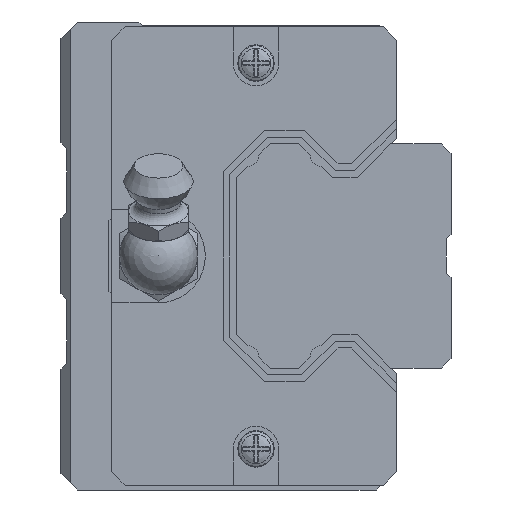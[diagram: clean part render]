
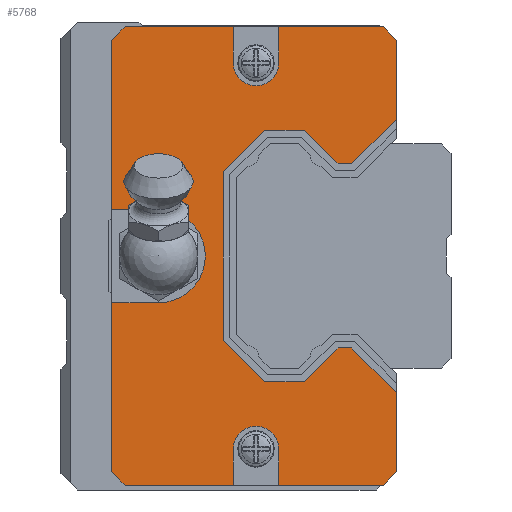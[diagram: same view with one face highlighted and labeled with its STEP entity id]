
A CAD part, left-side view. The second image highlights one B-rep face of the part: STEP entity #5768.
In plain terms, the highlighted planar face has unit normal (-1, 0, 0) as drawn and (1, 0, 0) by its records, which use the part's own axes.
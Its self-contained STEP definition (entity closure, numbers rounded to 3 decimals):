
#539=FACE_OUTER_BOUND('',#934,.T.);
#934=EDGE_LOOP('',(#4784,#4785,#4786,#4787,#4788,#4789,#4790,#4791,#4792,
#4793,#4794,#4795,#4796,#4797,#4798,#4799,#4800,#4801,#4802,#4803,#4804,
#4805,#4806,#4807,#4808,#4809,#4810,#4811,#4812,#4813,#4814,#4815));
#1205=CIRCLE('',#6460,2.328);
#1206=CIRCLE('',#6461,4.8);
#1207=CIRCLE('',#6462,2.328);
#1640=LINE('',#9502,#2193);
#1648=LINE('',#9515,#2201);
#1650=LINE('',#9519,#2203);
#1651=LINE('',#9521,#2204);
#1652=LINE('',#9523,#2205);
#1653=LINE('',#9525,#2206);
#1654=LINE('',#9527,#2207);
#1655=LINE('',#9529,#2208);
#1656=LINE('',#9531,#2209);
#1657=LINE('',#9533,#2210);
#1658=LINE('',#9535,#2211);
#1659=LINE('',#9537,#2212);
#1660=LINE('',#9538,#2213);
#1661=LINE('',#9540,#2214);
#1662=LINE('',#9542,#2215);
#1663=LINE('',#9544,#2216);
#1664=LINE('',#9548,#2217);
#1665=LINE('',#9550,#2218);
#1666=LINE('',#9552,#2219);
#1667=LINE('',#9554,#2220);
#1668=LINE('',#9556,#2221);
#1669=LINE('',#9560,#2222);
#1670=LINE('',#9562,#2223);
#1671=LINE('',#9564,#2224);
#1672=LINE('',#9566,#2225);
#1673=LINE('',#9568,#2226);
#1674=LINE('',#9572,#2227);
#1675=LINE('',#9574,#2228);
#1676=LINE('',#9575,#2229);
#2193=VECTOR('',#7790,1000.);
#2201=VECTOR('',#7800,1000.);
#2203=VECTOR('',#7804,1000.);
#2204=VECTOR('',#7805,1000.);
#2205=VECTOR('',#7806,1000.);
#2206=VECTOR('',#7807,1000.);
#2207=VECTOR('',#7808,1000.);
#2208=VECTOR('',#7809,1000.);
#2209=VECTOR('',#7810,1000.);
#2210=VECTOR('',#7811,1000.);
#2211=VECTOR('',#7812,1000.);
#2212=VECTOR('',#7813,1000.);
#2213=VECTOR('',#7814,1000.);
#2214=VECTOR('',#7815,1000.);
#2215=VECTOR('',#7816,1000.);
#2216=VECTOR('',#7817,1000.);
#2217=VECTOR('',#7820,1000.);
#2218=VECTOR('',#7821,1000.);
#2219=VECTOR('',#7822,1000.);
#2220=VECTOR('',#7823,1000.);
#2221=VECTOR('',#7824,1000.);
#2222=VECTOR('',#7827,1000.);
#2223=VECTOR('',#7828,1000.);
#2224=VECTOR('',#7829,1000.);
#2225=VECTOR('',#7830,1000.);
#2226=VECTOR('',#7831,1000.);
#2227=VECTOR('',#7834,1000.);
#2228=VECTOR('',#7835,1000.);
#2229=VECTOR('',#7836,1000.);
#2772=VERTEX_POINT('',#9499);
#2773=VERTEX_POINT('',#9501);
#2776=VERTEX_POINT('',#9512);
#2777=VERTEX_POINT('',#9514);
#2778=VERTEX_POINT('',#9518);
#2779=VERTEX_POINT('',#9520);
#2780=VERTEX_POINT('',#9522);
#2781=VERTEX_POINT('',#9524);
#2782=VERTEX_POINT('',#9526);
#2783=VERTEX_POINT('',#9528);
#2784=VERTEX_POINT('',#9530);
#2785=VERTEX_POINT('',#9532);
#2786=VERTEX_POINT('',#9534);
#2787=VERTEX_POINT('',#9536);
#2788=VERTEX_POINT('',#9539);
#2789=VERTEX_POINT('',#9541);
#2790=VERTEX_POINT('',#9543);
#2791=VERTEX_POINT('',#9545);
#2792=VERTEX_POINT('',#9547);
#2793=VERTEX_POINT('',#9549);
#2794=VERTEX_POINT('',#9551);
#2795=VERTEX_POINT('',#9553);
#2796=VERTEX_POINT('',#9555);
#2797=VERTEX_POINT('',#9557);
#2798=VERTEX_POINT('',#9559);
#2799=VERTEX_POINT('',#9561);
#2800=VERTEX_POINT('',#9563);
#2801=VERTEX_POINT('',#9565);
#2802=VERTEX_POINT('',#9567);
#2803=VERTEX_POINT('',#9569);
#2804=VERTEX_POINT('',#9571);
#2805=VERTEX_POINT('',#9573);
#3474=EDGE_CURVE('',#2773,#2772,#1640,.T.);
#3482=EDGE_CURVE('',#2777,#2776,#1648,.T.);
#3484=EDGE_CURVE('',#2778,#2772,#1650,.T.);
#3485=EDGE_CURVE('',#2779,#2778,#1651,.T.);
#3486=EDGE_CURVE('',#2780,#2779,#1652,.T.);
#3487=EDGE_CURVE('',#2781,#2780,#1653,.T.);
#3488=EDGE_CURVE('',#2782,#2781,#1654,.T.);
#3489=EDGE_CURVE('',#2783,#2782,#1655,.T.);
#3490=EDGE_CURVE('',#2784,#2783,#1656,.T.);
#3491=EDGE_CURVE('',#2785,#2784,#1657,.T.);
#3492=EDGE_CURVE('',#2786,#2785,#1658,.T.);
#3493=EDGE_CURVE('',#2787,#2786,#1659,.T.);
#3494=EDGE_CURVE('',#2777,#2787,#1660,.T.);
#3495=EDGE_CURVE('',#2776,#2788,#1661,.T.);
#3496=EDGE_CURVE('',#2788,#2789,#1662,.T.);
#3497=EDGE_CURVE('',#2790,#2789,#1663,.T.);
#3498=EDGE_CURVE('',#2791,#2790,#1205,.T.);
#3499=EDGE_CURVE('',#2792,#2791,#1664,.T.);
#3500=EDGE_CURVE('',#2792,#2793,#1665,.T.);
#3501=EDGE_CURVE('',#2793,#2794,#1666,.T.);
#3502=EDGE_CURVE('',#2794,#2795,#1667,.T.);
#3503=EDGE_CURVE('',#2796,#2795,#1668,.T.);
#3504=EDGE_CURVE('',#2797,#2796,#1206,.T.);
#3505=EDGE_CURVE('',#2798,#2797,#1669,.T.);
#3506=EDGE_CURVE('',#2798,#2799,#1670,.T.);
#3507=EDGE_CURVE('',#2799,#2800,#1671,.T.);
#3508=EDGE_CURVE('',#2800,#2801,#1672,.T.);
#3509=EDGE_CURVE('',#2802,#2801,#1673,.T.);
#3510=EDGE_CURVE('',#2803,#2802,#1207,.T.);
#3511=EDGE_CURVE('',#2804,#2803,#1674,.T.);
#3512=EDGE_CURVE('',#2804,#2805,#1675,.T.);
#3513=EDGE_CURVE('',#2805,#2773,#1676,.T.);
#4784=ORIENTED_EDGE('',*,*,#3484,.F.);
#4785=ORIENTED_EDGE('',*,*,#3485,.F.);
#4786=ORIENTED_EDGE('',*,*,#3486,.F.);
#4787=ORIENTED_EDGE('',*,*,#3487,.F.);
#4788=ORIENTED_EDGE('',*,*,#3488,.F.);
#4789=ORIENTED_EDGE('',*,*,#3489,.F.);
#4790=ORIENTED_EDGE('',*,*,#3490,.F.);
#4791=ORIENTED_EDGE('',*,*,#3491,.F.);
#4792=ORIENTED_EDGE('',*,*,#3492,.F.);
#4793=ORIENTED_EDGE('',*,*,#3493,.F.);
#4794=ORIENTED_EDGE('',*,*,#3494,.F.);
#4795=ORIENTED_EDGE('',*,*,#3482,.T.);
#4796=ORIENTED_EDGE('',*,*,#3495,.T.);
#4797=ORIENTED_EDGE('',*,*,#3496,.T.);
#4798=ORIENTED_EDGE('',*,*,#3497,.F.);
#4799=ORIENTED_EDGE('',*,*,#3498,.F.);
#4800=ORIENTED_EDGE('',*,*,#3499,.F.);
#4801=ORIENTED_EDGE('',*,*,#3500,.T.);
#4802=ORIENTED_EDGE('',*,*,#3501,.T.);
#4803=ORIENTED_EDGE('',*,*,#3502,.T.);
#4804=ORIENTED_EDGE('',*,*,#3503,.F.);
#4805=ORIENTED_EDGE('',*,*,#3504,.F.);
#4806=ORIENTED_EDGE('',*,*,#3505,.F.);
#4807=ORIENTED_EDGE('',*,*,#3506,.T.);
#4808=ORIENTED_EDGE('',*,*,#3507,.T.);
#4809=ORIENTED_EDGE('',*,*,#3508,.T.);
#4810=ORIENTED_EDGE('',*,*,#3509,.F.);
#4811=ORIENTED_EDGE('',*,*,#3510,.F.);
#4812=ORIENTED_EDGE('',*,*,#3511,.F.);
#4813=ORIENTED_EDGE('',*,*,#3512,.T.);
#4814=ORIENTED_EDGE('',*,*,#3513,.T.);
#4815=ORIENTED_EDGE('',*,*,#3474,.T.);
#5477=PLANE('',#6459);
#5768=ADVANCED_FACE('',(#539),#5477,.T.);
#6459=AXIS2_PLACEMENT_3D('',#9517,#7802,#7803);
#6460=AXIS2_PLACEMENT_3D('',#9546,#7818,#7819);
#6461=AXIS2_PLACEMENT_3D('',#9558,#7825,#7826);
#6462=AXIS2_PLACEMENT_3D('',#9570,#7832,#7833);
#7790=DIRECTION('',(0.,0.,-1.));
#7800=DIRECTION('',(0.,0.,-1.));
#7802=DIRECTION('center_axis',(1.,0.,0.));
#7803=DIRECTION('ref_axis',(0.,0.,-1.));
#7804=DIRECTION('',(0.,-0.707,0.707));
#7805=DIRECTION('',(0.,-1.,0.));
#7806=DIRECTION('',(0.,-0.707,-0.707));
#7807=DIRECTION('',(0.,-1.,0.));
#7808=DIRECTION('',(0.,-0.707,0.707));
#7809=DIRECTION('',(0.,0.,1.));
#7810=DIRECTION('',(0.,0.707,0.707));
#7811=DIRECTION('',(0.,1.,0.));
#7812=DIRECTION('',(0.,0.707,-0.707));
#7813=DIRECTION('',(0.,1.,0.));
#7814=DIRECTION('',(0.,0.707,0.707));
#7815=DIRECTION('',(0.,0.707,-0.707));
#7816=DIRECTION('',(0.,1.,0.));
#7817=DIRECTION('',(0.,0.,-1.));
#7818=DIRECTION('center_axis',(1.,0.,0.));
#7819=DIRECTION('ref_axis',(0.,0.,-1.));
#7820=DIRECTION('',(0.,0.,1.));
#7821=DIRECTION('',(0.,1.,0.));
#7822=DIRECTION('',(0.,0.707,0.707));
#7823=DIRECTION('',(0.,0.,1.));
#7824=DIRECTION('',(0.,1.,0.));
#7825=DIRECTION('center_axis',(1.,0.,0.));
#7826=DIRECTION('ref_axis',(0.,0.,-1.));
#7827=DIRECTION('',(0.,-1.,0.));
#7828=DIRECTION('',(0.,0.,1.));
#7829=DIRECTION('',(0.,-0.707,0.707));
#7830=DIRECTION('',(0.,-1.,0.));
#7831=DIRECTION('',(0.,0.,1.));
#7832=DIRECTION('center_axis',(1.,0.,0.));
#7833=DIRECTION('ref_axis',(0.,0.,-1.));
#7834=DIRECTION('',(0.,0.,-1.));
#7835=DIRECTION('',(0.,-1.,0.));
#7836=DIRECTION('',(0.,-0.707,-0.707));
#9499=CARTESIAN_POINT('',(2.,5.6,14.027));
#9501=CARTESIAN_POINT('',(2.,5.6,22.129));
#9502=CARTESIAN_POINT('',(2.,5.6,22.129));
#9512=CARTESIAN_POINT('',(2.,5.6,-22.129));
#9514=CARTESIAN_POINT('',(2.,5.6,-14.027));
#9515=CARTESIAN_POINT('',(2.,5.6,22.129));
#9517=CARTESIAN_POINT('Origin',(2.,0.,0.));
#9518=CARTESIAN_POINT('',(2.,10.191,9.436));
#9519=CARTESIAN_POINT('',(2.,10.191,9.436));
#9520=CARTESIAN_POINT('',(2.,11.588,9.436));
#9521=CARTESIAN_POINT('',(2.,11.588,9.436));
#9522=CARTESIAN_POINT('',(2.,15.032,12.88));
#9523=CARTESIAN_POINT('',(2.,15.032,12.88));
#9524=CARTESIAN_POINT('',(2.,19.128,12.88));
#9525=CARTESIAN_POINT('',(2.,19.128,12.88));
#9526=CARTESIAN_POINT('',(2.,23.38,8.628));
#9527=CARTESIAN_POINT('',(2.,23.38,8.628));
#9528=CARTESIAN_POINT('',(2.,23.38,-8.628));
#9529=CARTESIAN_POINT('',(2.,23.38,-8.628));
#9530=CARTESIAN_POINT('',(2.,19.128,-12.88));
#9531=CARTESIAN_POINT('',(2.,19.128,-12.88));
#9532=CARTESIAN_POINT('',(2.,15.032,-12.88));
#9533=CARTESIAN_POINT('',(2.,15.032,-12.88));
#9534=CARTESIAN_POINT('',(2.,11.588,-9.436));
#9535=CARTESIAN_POINT('',(2.,11.588,-9.436));
#9536=CARTESIAN_POINT('',(2.,10.191,-9.436));
#9537=CARTESIAN_POINT('',(2.,10.191,-9.436));
#9538=CARTESIAN_POINT('',(2.,5.6,-14.027));
#9539=CARTESIAN_POINT('',(2.,6.971,-23.5));
#9540=CARTESIAN_POINT('',(2.,5.6,-22.129));
#9541=CARTESIAN_POINT('',(2.,17.672,-23.5));
#9542=CARTESIAN_POINT('',(2.,6.971,-23.5));
#9543=CARTESIAN_POINT('',(2.,17.672,-19.788));
#9544=CARTESIAN_POINT('',(2.,17.672,-19.788));
#9545=CARTESIAN_POINT('',(2.,22.328,-19.788));
#9546=CARTESIAN_POINT('Origin',(2.,20.,-19.788));
#9547=CARTESIAN_POINT('',(2.,22.328,-23.5));
#9548=CARTESIAN_POINT('',(2.,22.328,0.));
#9549=CARTESIAN_POINT('',(2.,33.429,-23.5));
#9550=CARTESIAN_POINT('',(2.,6.971,-23.5));
#9551=CARTESIAN_POINT('',(2.,34.8,-22.129));
#9552=CARTESIAN_POINT('',(2.,33.429,-23.5));
#9553=CARTESIAN_POINT('',(2.,34.8,-4.8));
#9554=CARTESIAN_POINT('',(2.,34.8,-22.129));
#9555=CARTESIAN_POINT('',(2.,30.,-4.8));
#9556=CARTESIAN_POINT('',(2.,30.,-4.8));
#9557=CARTESIAN_POINT('',(2.,30.,4.8));
#9558=CARTESIAN_POINT('Origin',(2.,30.,0.));
#9559=CARTESIAN_POINT('',(2.,34.8,4.8));
#9560=CARTESIAN_POINT('',(2.,34.8,4.8));
#9561=CARTESIAN_POINT('',(2.,34.8,22.129));
#9562=CARTESIAN_POINT('',(2.,34.8,-22.129));
#9563=CARTESIAN_POINT('',(2.,33.429,23.5));
#9564=CARTESIAN_POINT('',(2.,34.8,22.129));
#9565=CARTESIAN_POINT('',(2.,22.328,23.5));
#9566=CARTESIAN_POINT('',(2.,33.429,23.5));
#9567=CARTESIAN_POINT('',(2.,22.328,19.788));
#9568=CARTESIAN_POINT('',(2.,22.328,19.788));
#9569=CARTESIAN_POINT('',(2.,17.672,19.788));
#9570=CARTESIAN_POINT('Origin',(2.,20.,19.788));
#9571=CARTESIAN_POINT('',(2.,17.672,23.5));
#9572=CARTESIAN_POINT('',(2.,17.672,23.5));
#9573=CARTESIAN_POINT('',(2.,6.971,23.5));
#9574=CARTESIAN_POINT('',(2.,33.429,23.5));
#9575=CARTESIAN_POINT('',(2.,6.971,23.5));
